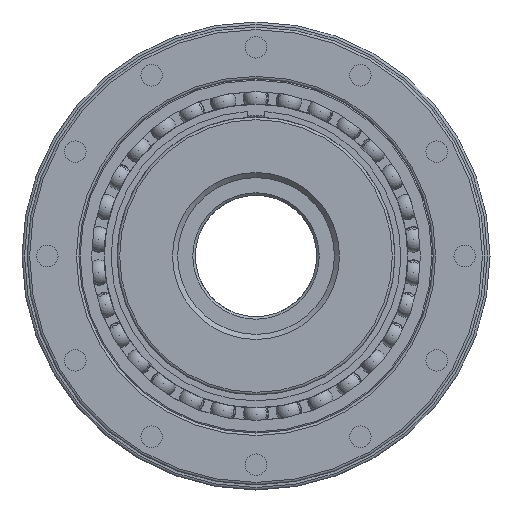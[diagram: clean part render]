
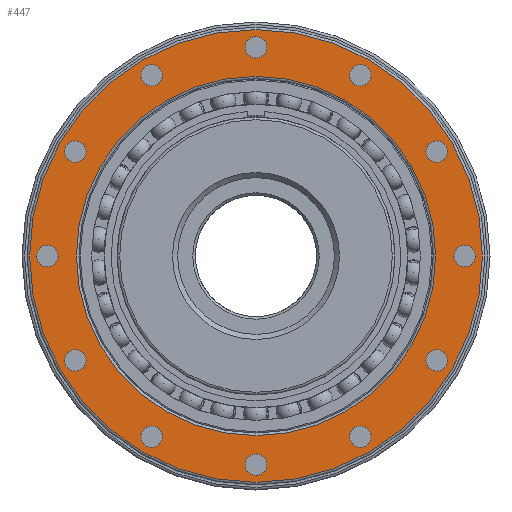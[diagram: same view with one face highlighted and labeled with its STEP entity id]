
A CAD part, left-side view. The second image highlights one B-rep face of the part: STEP entity #447.
In plain terms, the highlighted planar face has unit normal (-1, 0, 0).
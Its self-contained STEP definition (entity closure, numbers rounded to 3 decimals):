
#447 = ADVANCED_FACE( '', ( #1288, #1289, #1290, #1291, #1292, #1293, #1294, #1295, #1296, #1297, #1298, #1299, #1300, #1301 ), #1302, .T. );
#1288 = FACE_OUTER_BOUND( '', #2724, .T. );
#1289 = FACE_BOUND( '', #2725, .T. );
#1290 = FACE_BOUND( '', #2726, .T. );
#1291 = FACE_BOUND( '', #2727, .T. );
#1292 = FACE_BOUND( '', #2728, .T. );
#1293 = FACE_BOUND( '', #2729, .T. );
#1294 = FACE_BOUND( '', #2730, .T. );
#1295 = FACE_BOUND( '', #2731, .T. );
#1296 = FACE_BOUND( '', #2732, .T. );
#1297 = FACE_BOUND( '', #2733, .T. );
#1298 = FACE_BOUND( '', #2734, .T. );
#1299 = FACE_BOUND( '', #2735, .T. );
#1300 = FACE_BOUND( '', #2736, .T. );
#1301 = FACE_BOUND( '', #2737, .T. );
#1302 = PLANE( '', #2738 );
#2724 = EDGE_LOOP( '', ( #4199 ) );
#2725 = EDGE_LOOP( '', ( #4200 ) );
#2726 = EDGE_LOOP( '', ( #4201 ) );
#2727 = EDGE_LOOP( '', ( #4202 ) );
#2728 = EDGE_LOOP( '', ( #4203 ) );
#2729 = EDGE_LOOP( '', ( #4204 ) );
#2730 = EDGE_LOOP( '', ( #4205 ) );
#2731 = EDGE_LOOP( '', ( #4206 ) );
#2732 = EDGE_LOOP( '', ( #4207 ) );
#2733 = EDGE_LOOP( '', ( #4208 ) );
#2734 = EDGE_LOOP( '', ( #4209 ) );
#2735 = EDGE_LOOP( '', ( #4210 ) );
#2736 = EDGE_LOOP( '', ( #4211 ) );
#2737 = EDGE_LOOP( '', ( #4212 ) );
#2738 = AXIS2_PLACEMENT_3D( '', #4213, #4214, #4215 );
#4199 = ORIENTED_EDGE( '', *, *, #8082, .T. );
#4200 = ORIENTED_EDGE( '', *, *, #8083, .T. );
#4201 = ORIENTED_EDGE( '', *, *, #8084, .T. );
#4202 = ORIENTED_EDGE( '', *, *, #8085, .T. );
#4203 = ORIENTED_EDGE( '', *, *, #8086, .T. );
#4204 = ORIENTED_EDGE( '', *, *, #8087, .T. );
#4205 = ORIENTED_EDGE( '', *, *, #8088, .T. );
#4206 = ORIENTED_EDGE( '', *, *, #8089, .T. );
#4207 = ORIENTED_EDGE( '', *, *, #8090, .T. );
#4208 = ORIENTED_EDGE( '', *, *, #8091, .T. );
#4209 = ORIENTED_EDGE( '', *, *, #8092, .T. );
#4210 = ORIENTED_EDGE( '', *, *, #8093, .T. );
#4211 = ORIENTED_EDGE( '', *, *, #8094, .T. );
#4212 = ORIENTED_EDGE( '', *, *, #8095, .F. );
#4213 = CARTESIAN_POINT( '', ( -42.056, 0., 71. ) );
#4214 = DIRECTION( '', ( -1., 0., 0. ) );
#4215 = DIRECTION( '', ( 0., 0., 1. ) );
#8082 = EDGE_CURVE( '', #9678, #9678, #9679, .T. );
#8083 = EDGE_CURVE( '', #9680, #9680, #9681, .T. );
#8084 = EDGE_CURVE( '', #9682, #9682, #9683, .T. );
#8085 = EDGE_CURVE( '', #9684, #9684, #9685, .T. );
#8086 = EDGE_CURVE( '', #9686, #9686, #9687, .T. );
#8087 = EDGE_CURVE( '', #9688, #9688, #9689, .T. );
#8088 = EDGE_CURVE( '', #9690, #9690, #9691, .T. );
#8089 = EDGE_CURVE( '', #9692, #9692, #9693, .T. );
#8090 = EDGE_CURVE( '', #9694, #9694, #9695, .T. );
#8091 = EDGE_CURVE( '', #9696, #9696, #9697, .T. );
#8092 = EDGE_CURVE( '', #9698, #9698, #9699, .T. );
#8093 = EDGE_CURVE( '', #9700, #9700, #9701, .T. );
#8094 = EDGE_CURVE( '', #9702, #9702, #9703, .T. );
#8095 = EDGE_CURVE( '', #9704, #9704, #9705, .T. );
#9678 = VERTEX_POINT( '', #12444 );
#9679 = CIRCLE( '', #12445, 89.5 );
#9680 = VERTEX_POINT( '', #12446 );
#9681 = CIRCLE( '', #12447, 4.25 );
#9682 = VERTEX_POINT( '', #12448 );
#9683 = CIRCLE( '', #12449, 4.25 );
#9684 = VERTEX_POINT( '', #12450 );
#9685 = CIRCLE( '', #12451, 4.25 );
#9686 = VERTEX_POINT( '', #12452 );
#9687 = CIRCLE( '', #12453, 4.25 );
#9688 = VERTEX_POINT( '', #12454 );
#9689 = CIRCLE( '', #12455, 4.25 );
#9690 = VERTEX_POINT( '', #12456 );
#9691 = CIRCLE( '', #12457, 4.25 );
#9692 = VERTEX_POINT( '', #12458 );
#9693 = CIRCLE( '', #12459, 4.25 );
#9694 = VERTEX_POINT( '', #12460 );
#9695 = CIRCLE( '', #12461, 4.25 );
#9696 = VERTEX_POINT( '', #12462 );
#9697 = CIRCLE( '', #12463, 4.25 );
#9698 = VERTEX_POINT( '', #12464 );
#9699 = CIRCLE( '', #12465, 4.25 );
#9700 = VERTEX_POINT( '', #12466 );
#9701 = CIRCLE( '', #12467, 4.25 );
#9702 = VERTEX_POINT( '', #12468 );
#9703 = CIRCLE( '', #12469, 4.25 );
#9704 = VERTEX_POINT( '', #12470 );
#9705 = CIRCLE( '', #12471, 71. );
#12444 = CARTESIAN_POINT( '', ( -42.056, 0., 89.5 ) );
#12445 = AXIS2_PLACEMENT_3D( '', #22866, #22867, #22868 );
#12446 = CARTESIAN_POINT( '', ( -42.056, -82.5, 4.25 ) );
#12447 = AXIS2_PLACEMENT_3D( '', #22869, #22870, #22871 );
#12448 = CARTESIAN_POINT( '', ( -42.056, -71.447, 45.5 ) );
#12449 = AXIS2_PLACEMENT_3D( '', #22872, #22873, #22874 );
#12450 = CARTESIAN_POINT( '', ( -42.056, -41.25, 75.697 ) );
#12451 = AXIS2_PLACEMENT_3D( '', #22875, #22876, #22877 );
#12452 = CARTESIAN_POINT( '', ( -42.056, 0., 86.75 ) );
#12453 = AXIS2_PLACEMENT_3D( '', #22878, #22879, #22880 );
#12454 = CARTESIAN_POINT( '', ( -42.056, 41.25, 75.697 ) );
#12455 = AXIS2_PLACEMENT_3D( '', #22881, #22882, #22883 );
#12456 = CARTESIAN_POINT( '', ( -42.056, 71.447, 45.5 ) );
#12457 = AXIS2_PLACEMENT_3D( '', #22884, #22885, #22886 );
#12458 = CARTESIAN_POINT( '', ( -42.056, 82.5, 4.25 ) );
#12459 = AXIS2_PLACEMENT_3D( '', #22887, #22888, #22889 );
#12460 = CARTESIAN_POINT( '', ( -42.056, 71.447, -37. ) );
#12461 = AXIS2_PLACEMENT_3D( '', #22890, #22891, #22892 );
#12462 = CARTESIAN_POINT( '', ( -42.056, 0., -78.25 ) );
#12463 = AXIS2_PLACEMENT_3D( '', #22893, #22894, #22895 );
#12464 = CARTESIAN_POINT( '', ( -42.056, 41.25, -67.197 ) );
#12465 = AXIS2_PLACEMENT_3D( '', #22896, #22897, #22898 );
#12466 = CARTESIAN_POINT( '', ( -42.056, -41.25, -67.197 ) );
#12467 = AXIS2_PLACEMENT_3D( '', #22899, #22900, #22901 );
#12468 = CARTESIAN_POINT( '', ( -42.056, -71.447, -37. ) );
#12469 = AXIS2_PLACEMENT_3D( '', #22902, #22903, #22904 );
#12470 = CARTESIAN_POINT( '', ( -42.056, 0., 71. ) );
#12471 = AXIS2_PLACEMENT_3D( '', #22905, #22906, #22907 );
#22866 = CARTESIAN_POINT( '', ( -42.056, 0., 0. ) );
#22867 = DIRECTION( '', ( -1., 0., 0. ) );
#22868 = DIRECTION( '', ( 0., 0., 1. ) );
#22869 = CARTESIAN_POINT( '', ( -42.056, -82.5, 0. ) );
#22870 = DIRECTION( '', ( 1., 0., 0. ) );
#22871 = DIRECTION( '', ( 0., 0., 1. ) );
#22872 = CARTESIAN_POINT( '', ( -42.056, -71.447, 41.25 ) );
#22873 = DIRECTION( '', ( 1., 0., 0. ) );
#22874 = DIRECTION( '', ( 0., 0., 1. ) );
#22875 = CARTESIAN_POINT( '', ( -42.056, -41.25, 71.447 ) );
#22876 = DIRECTION( '', ( 1., 0., 0. ) );
#22877 = DIRECTION( '', ( 0., 0., 1. ) );
#22878 = CARTESIAN_POINT( '', ( -42.056, 0., 82.5 ) );
#22879 = DIRECTION( '', ( 1., 0., 0. ) );
#22880 = DIRECTION( '', ( 0., 0., 1. ) );
#22881 = CARTESIAN_POINT( '', ( -42.056, 41.25, 71.447 ) );
#22882 = DIRECTION( '', ( 1., 0., 0. ) );
#22883 = DIRECTION( '', ( 0., 0., 1. ) );
#22884 = CARTESIAN_POINT( '', ( -42.056, 71.447, 41.25 ) );
#22885 = DIRECTION( '', ( 1., 0., 0. ) );
#22886 = DIRECTION( '', ( 0., 0., 1. ) );
#22887 = CARTESIAN_POINT( '', ( -42.056, 82.5, 0. ) );
#22888 = DIRECTION( '', ( 1., 0., 0. ) );
#22889 = DIRECTION( '', ( 0., 0., 1. ) );
#22890 = CARTESIAN_POINT( '', ( -42.056, 71.447, -41.25 ) );
#22891 = DIRECTION( '', ( 1., 0., 0. ) );
#22892 = DIRECTION( '', ( 0., 0., 1. ) );
#22893 = CARTESIAN_POINT( '', ( -42.056, 0., -82.5 ) );
#22894 = DIRECTION( '', ( 1., 0., 0. ) );
#22895 = DIRECTION( '', ( 0., 0., 1. ) );
#22896 = CARTESIAN_POINT( '', ( -42.056, 41.25, -71.447 ) );
#22897 = DIRECTION( '', ( 1., 0., 0. ) );
#22898 = DIRECTION( '', ( 0., 0., 1. ) );
#22899 = CARTESIAN_POINT( '', ( -42.056, -41.25, -71.447 ) );
#22900 = DIRECTION( '', ( 1., 0., 0. ) );
#22901 = DIRECTION( '', ( 0., 0., 1. ) );
#22902 = CARTESIAN_POINT( '', ( -42.056, -71.447, -41.25 ) );
#22903 = DIRECTION( '', ( 1., 0., 0. ) );
#22904 = DIRECTION( '', ( 0., 0., 1. ) );
#22905 = CARTESIAN_POINT( '', ( -42.056, 0., 0. ) );
#22906 = DIRECTION( '', ( -1., 0., 0. ) );
#22907 = DIRECTION( '', ( 0., 0., 1. ) );
